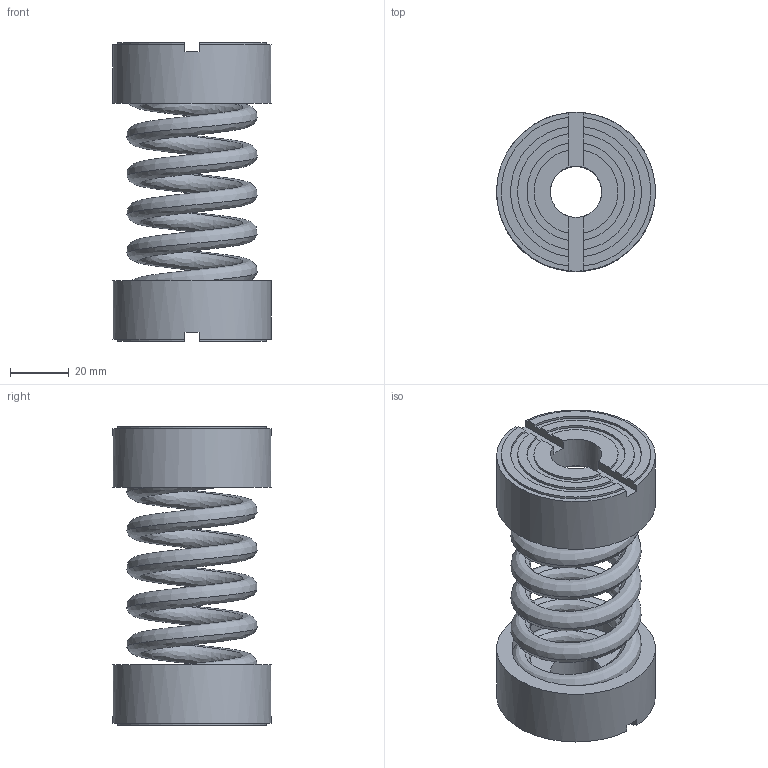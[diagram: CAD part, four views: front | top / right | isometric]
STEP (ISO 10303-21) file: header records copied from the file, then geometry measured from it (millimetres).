
FILE_DESCRIPTION(/* description */ (''),/* implementation_level */ '2;1');
FILE_NAME(/* name */ '\\Mleuckthor2\cad-proe_solids\WEBSITE FILES 05.22.13\STEP\IMF\IMF-A-510.stp',/* time_stamp */ '2016-03-07T09:37:30-05:00',/* author */ ('rramoutar'),/* organization */ ('Mason Industries Inc.'),/* preprocessor_version */ 'ST-DEVELOPER v15.6',/* originating_system */ 'Autodesk Inventor 2015',/* authorisation */ '');
FILE_SCHEMA (('CONFIG_CONTROL_DESIGN'));
Length unit declared in the file: inch
Products named in the file (1): IMF-A-510
Bounding box: 53.98 x 53.98 x 101.6 mm (x, y, z)
Volume: 68893.4 mm3; surface area: 56177.4 mm2
Topology: 5 solids, 7 shells, 112 faces, 294 edges, 196 vertices
Faces by surface type: plane 54, cylinder 36, bspline 22
Full cylindrical faces by diameter (mm): 17.462 x2, 24.606 x4, 43.656 x2, 44.45 x4, 53.975 x2
Entity records: 12900 total; most frequent: CARTESIAN_POINT 10106, ORIENTED_EDGE 552, DIRECTION 496, EDGE_CURVE 276, VERTEX_POINT 192, AXIS2_PLACEMENT_3D 177, LINE 142, VECTOR 142
